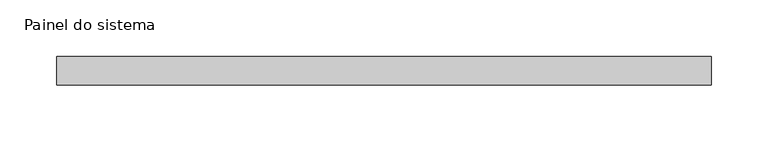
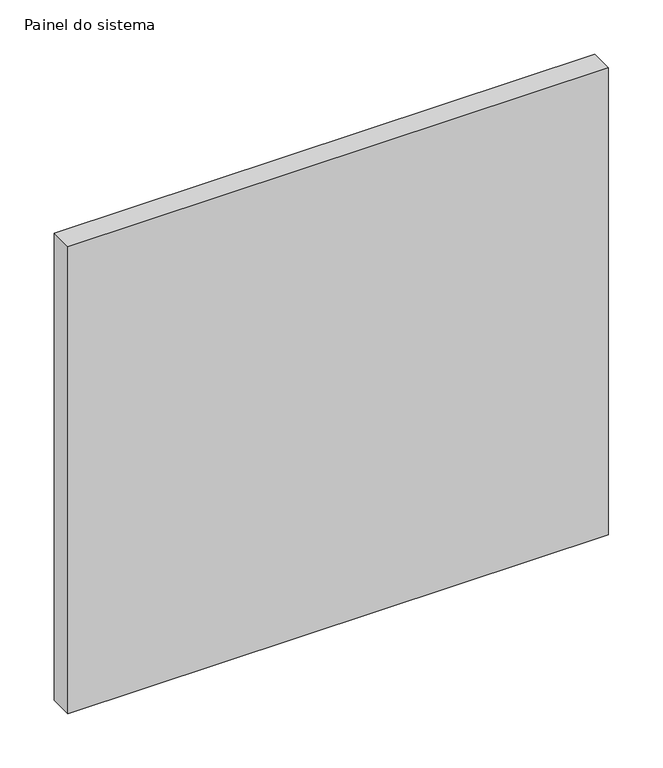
"""IFC4 building model written with IfcOpenShell, lengths in millimetres: plate geometry, Painel do sistema : Envidraçado."""

from ifc_helpers import new_model, si_unit, origin, origin_with_axes, place, context, project, spatial, polyline, outline, extrude, source, transform, mapped, element, save


def painel_do_sistema_1da57d60(model_context):
    return source(origin(), model_context, "Body", "SweptSolid", [
        extrude(outline(polyline([(287.5002289, 24.5), (-287.5002289, 24.5), (-287.5002289, 49.5), (287.5002289, 49.5), (287.5002289, 24.5)])), origin_with_axes(), (0.0, 0.0, 1.0), 525.0),
    ])


if __name__ == "__main__":
    model = new_model("IFC4")
    model_context = context("Model", 3, world=origin())
    ifc_project = project(units=[si_unit("LENGTHUNIT", "METRE", prefix="MILLI")], contexts=[model_context])
    site = spatial("IfcSite", under=ifc_project)
    building = spatial("IfcBuilding", under=site)
    placement = place(None, origin())
    painel_do_sistema_shape = painel_do_sistema_1da57d60(model_context)
    element("IfcPlate", 1, ObjectType="Painel do sistema : Envidraçado", at=placement, inside=building, context=model_context, shape_type="MappedRepresentation", body=[
        mapped(painel_do_sistema_shape, transform((0.0, 0.0, 0.0), x_axis=(1.0, 0.0, 0.0), y_axis=(0.0, 1.0, 0.0), z_axis=(0.0, 0.0, 1.0))),
    ])
    save(model, "model.ifc")
